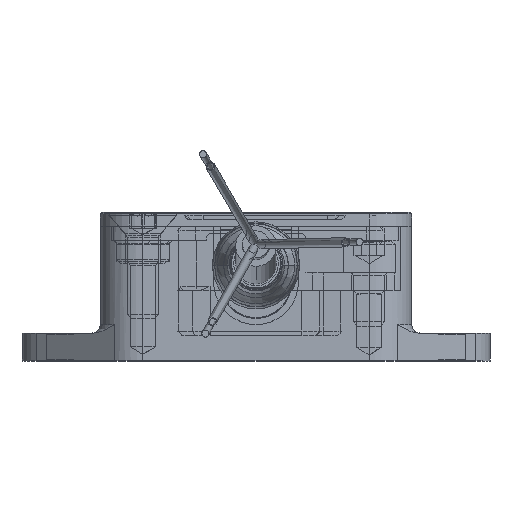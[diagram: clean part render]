
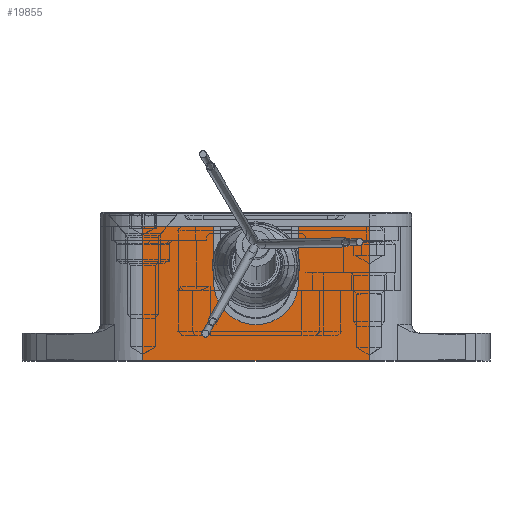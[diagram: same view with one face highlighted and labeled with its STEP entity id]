
A CAD part, top view. The second image highlights one B-rep face of the part: STEP entity #19855.
In plain terms, the highlighted planar face has unit normal (0, 0, 1) as drawn and (0, -1, 0) by its records, which use the part's own axes.
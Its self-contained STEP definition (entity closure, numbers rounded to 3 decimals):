
#1084 = CARTESIAN_POINT ( 'NONE',  ( -10.16, -10.16, 12.065 ) ) ;
#1390 = ORIENTED_EDGE ( 'NONE', *, *, #1825, .F. ) ;
#1413 = EDGE_CURVE ( 'NONE', #20629, #13734, #19784, .T. ) ;
#1659 = EDGE_CURVE ( 'NONE', #10530, #20629, #15504, .T. ) ;
#1746 = DIRECTION ( 'NONE',  ( 0., 0., 1. ) ) ;
#1825 = EDGE_CURVE ( 'NONE', #11613, #10530, #14123, .T. ) ;
#1936 = DIRECTION ( 'NONE',  ( 0., 0., -1. ) ) ;
#2122 = CARTESIAN_POINT ( 'NONE',  ( -3.2, -10.16, 12.065 ) ) ;
#2545 = VECTOR ( 'NONE', #16030, 1000. ) ;
#2572 = CARTESIAN_POINT ( 'NONE',  ( 3.2, -10.16, 7.01 ) ) ;
#3627 = VECTOR ( 'NONE', #1936, 1000. ) ;
#3833 = CARTESIAN_POINT ( 'NONE',  ( 0., -10.16, 7.01 ) ) ;
#4056 = CIRCLE ( 'NONE', #21998, 3.2 ) ;
#4113 = EDGE_CURVE ( 'NONE', #13734, #12198, #9523, .T. ) ;
#4803 = CARTESIAN_POINT ( 'NONE',  ( 10.16, -10.16, 0. ) ) ;
#5456 = ORIENTED_EDGE ( 'NONE', *, *, #1413, .F. ) ;
#5926 = CIRCLE ( 'NONE', #23065, 3.2 ) ;
#6053 = DIRECTION ( 'NONE',  ( 0., 0., 1. ) ) ;
#6343 = VERTEX_POINT ( 'NONE', #6838 ) ;
#6838 = CARTESIAN_POINT ( 'NONE',  ( 0., -10.16, 3.81 ) ) ;
#8000 = DIRECTION ( 'NONE',  ( 0., -1., 0. ) ) ;
#9523 = LINE ( 'NONE', #22636, #22498 ) ;
#9600 = EDGE_CURVE ( 'NONE', #9674, #6343, #5926, .T. ) ;
#9674 = VERTEX_POINT ( 'NONE', #11506 ) ;
#10081 = VERTEX_POINT ( 'NONE', #20313 ) ;
#10101 = VECTOR ( 'NONE', #12248, 1000. ) ;
#10283 = LINE ( 'NONE', #2572, #21918 ) ;
#10359 = EDGE_CURVE ( 'NONE', #22549, #10081, #10283, .T. ) ;
#10530 = VERTEX_POINT ( 'NONE', #4803 ) ;
#11191 = PLANE ( 'NONE',  #15346 ) ;
#11371 = EDGE_CURVE ( 'NONE', #12198, #9674, #24616, .T. ) ;
#11383 = CARTESIAN_POINT ( 'NONE',  ( -10.16, -10.16, 0. ) ) ;
#11391 = CARTESIAN_POINT ( 'NONE',  ( -3.2, -10.16, 12.065 ) ) ;
#11506 = CARTESIAN_POINT ( 'NONE',  ( -3.2, -10.16, 7.01 ) ) ;
#11542 = DIRECTION ( 'NONE',  ( 0., 0., -1. ) ) ;
#11613 = VERTEX_POINT ( 'NONE', #16752 ) ;
#12198 = VERTEX_POINT ( 'NONE', #2122 ) ;
#12248 = DIRECTION ( 'NONE',  ( 0., 0., -1. ) ) ;
#13397 = DIRECTION ( 'NONE',  ( 1., 0., 0. ) ) ;
#13459 = ORIENTED_EDGE ( 'NONE', *, *, #11371, .F. ) ;
#13734 = VERTEX_POINT ( 'NONE', #20206 ) ;
#14123 = LINE ( 'NONE', #19883, #10101 ) ;
#14847 = ORIENTED_EDGE ( 'NONE', *, *, #23030, .F. ) ;
#15346 = AXIS2_PLACEMENT_3D ( 'NONE', #18828, #22800, #1746 ) ;
#15409 = EDGE_CURVE ( 'NONE', #6343, #22549, #4056, .T. ) ;
#15504 = LINE ( 'NONE', #21006, #21684 ) ;
#15507 = DIRECTION ( 'NONE',  ( 0., 0., -1. ) ) ;
#15922 = EDGE_LOOP ( 'NONE', ( #14847, #20534, #22512, #23226, #13459, #21396, #5456, #24342, #1390 ) ) ;
#16030 = DIRECTION ( 'NONE',  ( 0., 0., 1. ) ) ;
#16317 = DIRECTION ( 'NONE',  ( 1., 0., 0. ) ) ;
#16564 = CARTESIAN_POINT ( 'NONE',  ( -10.16, -10.16, 12.065 ) ) ;
#16671 = VECTOR ( 'NONE', #16317, 1000. ) ;
#16752 = CARTESIAN_POINT ( 'NONE',  ( 10.16, -10.16, 12.065 ) ) ;
#16828 = FACE_OUTER_BOUND ( 'NONE', #15922, .T. ) ;
#17266 = CARTESIAN_POINT ( 'NONE',  ( 0., -10.16, 7.01 ) ) ;
#18828 = CARTESIAN_POINT ( 'NONE',  ( -10.16, -10.16, 12.065 ) ) ;
#19784 = LINE ( 'NONE', #1084, #2545 ) ;
#19855 = ADVANCED_FACE ( 'NONE', ( #16828 ), #11191, .F. ) ;
#19883 = CARTESIAN_POINT ( 'NONE',  ( 10.16, -10.16, 12.065 ) ) ;
#20206 = CARTESIAN_POINT ( 'NONE',  ( -10.16, -10.16, 12.065 ) ) ;
#20313 = CARTESIAN_POINT ( 'NONE',  ( 3.2, -10.16, 12.065 ) ) ;
#20534 = ORIENTED_EDGE ( 'NONE', *, *, #10359, .F. ) ;
#20629 = VERTEX_POINT ( 'NONE', #11383 ) ;
#21006 = CARTESIAN_POINT ( 'NONE',  ( -10.16, -10.16, 0. ) ) ;
#21127 = DIRECTION ( 'NONE',  ( -1., 0., 0. ) ) ;
#21396 = ORIENTED_EDGE ( 'NONE', *, *, #4113, .F. ) ;
#21468 = CARTESIAN_POINT ( 'NONE',  ( 3.2, -10.16, 7.01 ) ) ;
#21684 = VECTOR ( 'NONE', #21127, 1000. ) ;
#21918 = VECTOR ( 'NONE', #6053, 1000. ) ;
#21998 = AXIS2_PLACEMENT_3D ( 'NONE', #3833, #24650, #11542 ) ;
#22498 = VECTOR ( 'NONE', #13397, 1000. ) ;
#22512 = ORIENTED_EDGE ( 'NONE', *, *, #15409, .F. ) ;
#22549 = VERTEX_POINT ( 'NONE', #21468 ) ;
#22636 = CARTESIAN_POINT ( 'NONE',  ( -10.16, -10.16, 12.065 ) ) ;
#22800 = DIRECTION ( 'NONE',  ( 0., 1., 0. ) ) ;
#23030 = EDGE_CURVE ( 'NONE', #10081, #11613, #24163, .T. ) ;
#23065 = AXIS2_PLACEMENT_3D ( 'NONE', #17266, #8000, #15507 ) ;
#23226 = ORIENTED_EDGE ( 'NONE', *, *, #9600, .F. ) ;
#24163 = LINE ( 'NONE', #16564, #16671 ) ;
#24342 = ORIENTED_EDGE ( 'NONE', *, *, #1659, .F. ) ;
#24616 = LINE ( 'NONE', #11391, #3627 ) ;
#24650 = DIRECTION ( 'NONE',  ( 0., -1., 0. ) ) ;
